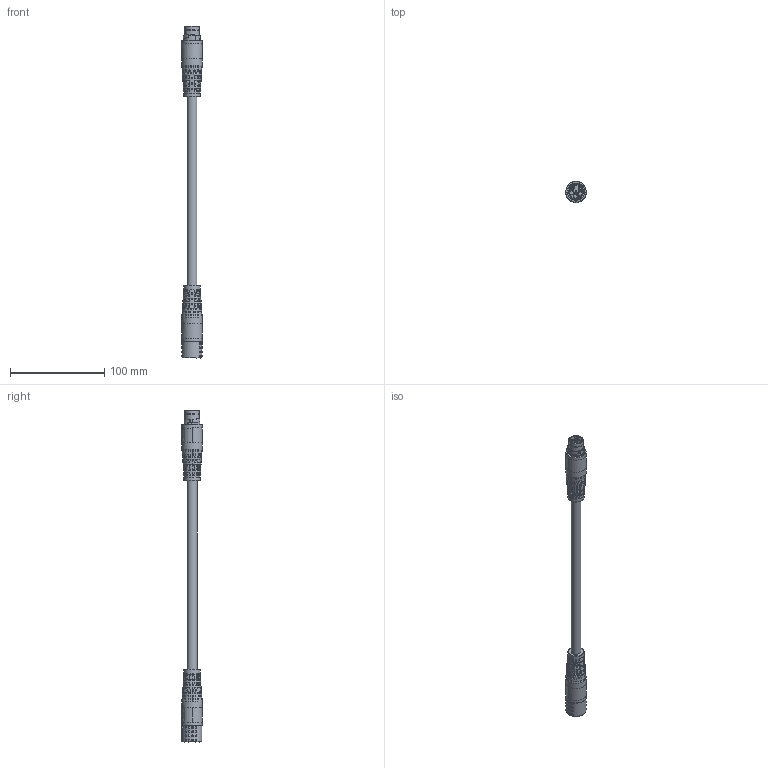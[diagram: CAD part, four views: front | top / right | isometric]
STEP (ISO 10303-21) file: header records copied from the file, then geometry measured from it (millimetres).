
FILE_DESCRIPTION (( 'STEP AP203' ), '1' );
FILE_NAME ('1135021_W-TEC_15M_STI_BU_STEP.STEP', '2023-09-06T11:37:22', ( '' ), ( '' ), 'SwSTEP 2.0', 'SolidWorks 2021', '' );
FILE_SCHEMA (( 'CONFIG_CONTROL_DESIGN' ));
Products named in the file (1): 1135021_W-TEC_15M_STI_BU_STEP
Bounding box: 21.78 x 21.84 x 352.18 mm (x, y, z)
Surface area: 22510.1 mm2 (no closed solid volume)
Topology: 0 solids, 24 shells, 745 faces, 3103 edges, 2180 vertices
Faces by surface type: bspline 387, plane 159, cylinder 123, cone 60, torus 16
Full cylindrical faces by diameter (mm): 1.6 x3, 3.3 x6, 4.2 x3, 4.4 x3, 10.6 x1, 15.2 x1, 15.4 x1, 15.5 x1, 16.8 x1, 17.384 x2, 18.4 x1, 21.24 x2, 21.72 x2
Entity records: 54119 total; most frequent: CARTESIAN_POINT 34335, ORIENTED_EDGE 4439, EDGE_CURVE 2989, DIRECTION 2761, VERTEX_POINT 2164, B_SPLINE_CURVE_WITH_KNOTS 1344, AXIS2_PLACEMENT_3D 1017, EDGE_LOOP 866
